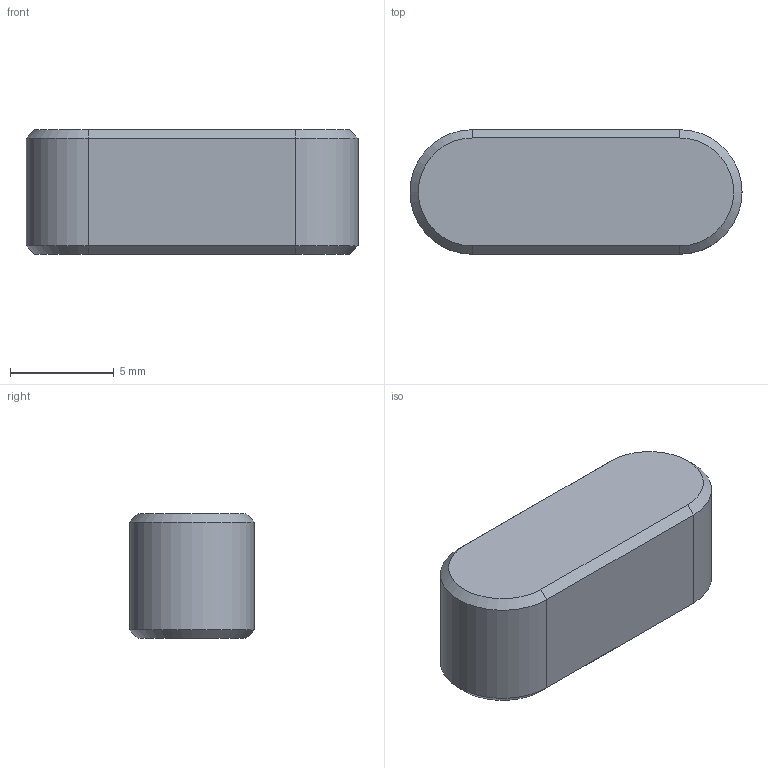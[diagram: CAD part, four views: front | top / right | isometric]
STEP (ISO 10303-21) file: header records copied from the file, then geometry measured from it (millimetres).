
FILE_DESCRIPTION(/* description */ ('키 및 해당 키홈'),/* implementation_level */ '2;1');
FILE_NAME(/* name */ '',/* time_stamp */ '2025-11-19T16:39:35+09:00',/* author */ ('jhkim'),/* organization */ (''),/* preprocessor_version */ 'ST-DEVELOPER v20.1',/* originating_system */ 'Autodesk Inventor 2026',/* authorisation */ '');
FILE_SCHEMA (('AUTOMOTIVE_DESIGN { 1 0 10303 214 3 1 1 }'));
Length unit declared in the file: millimetre
Products named in the file (1): 평행 키 6x6x16
Bounding box: 16 x 6 x 6 mm (x, y, z)
Volume: 523.6 mm3; surface area: 391 mm2
Topology: 1 solids, 1 shells, 14 faces, 28 edges, 16 vertices
Faces by surface type: plane 8, cone 4, cylinder 2
Entity records: 399 total; most frequent: DIRECTION 66, CARTESIAN_POINT 59, ORIENTED_EDGE 56, EDGE_CURVE 28, AXIS2_PLACEMENT_3D 23, LINE 20, VECTOR 20, VERTEX_POINT 16
